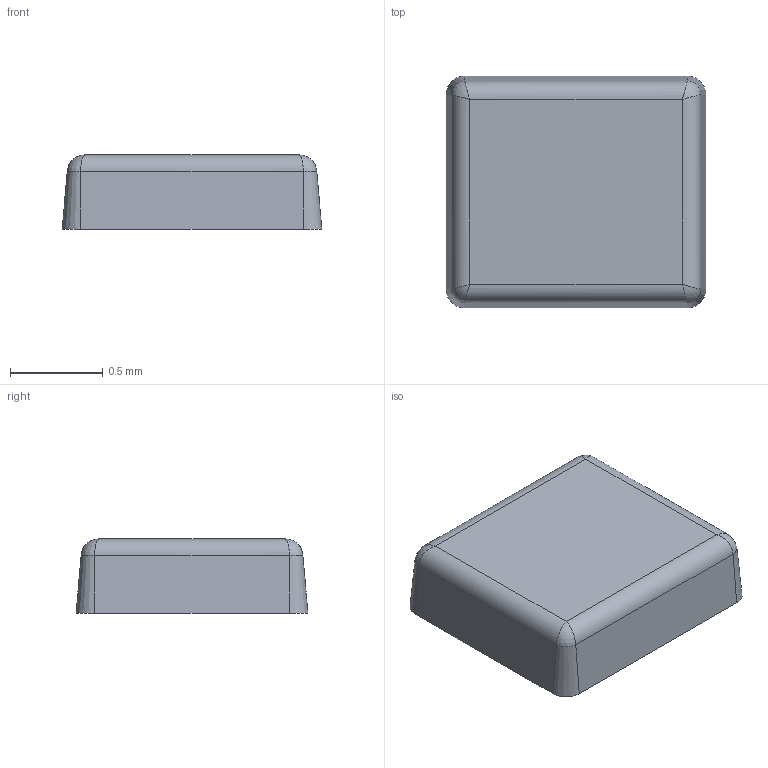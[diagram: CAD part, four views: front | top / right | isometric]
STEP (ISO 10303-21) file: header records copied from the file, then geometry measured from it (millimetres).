
FILE_DESCRIPTION(/* description */ ('STEP AP242 Edition 2','CAx-IF Rec.Pracs.---Representation and Presentation of Product Manufacturing Information (PMI)---4.0---2014-10-13','CAx-IF Rec.Pracs.---3D Tessellated Geometry---0.4---2014-09-14','2;1','CAx-IF Rec.Pracs.---User Defined Attributes---1.5---2016-08-15'),/* implementation_level */ '2;1');
FILE_NAME(/* name */ 'Assembly 1 - LED0805-RD_RED~LED0805-RD_RED~nxQB_1 (1)',/* time_stamp */ '2026-04-02T09:55:15Z',/* author */ (''),/* organization */ (''),/* preprocessor_version */ 'ST-DEVELOPER v20',/* originating_system */ 'ONSHAPE BY PTC INC, 1.212',/* authorisation */ ' ');
FILE_SCHEMA (('AP242_MANAGED_MODEL_BASED_3D_ENGINEERING_MIM_LF { 1 0 10303 442 3 1 4 }'));
Length unit declared in the file: metre
Products named in the file (1): LED0805-RD_RED~LED0805-RD_RED~nxQB_1
Bounding box: 1.4 x 1.25 x 0.4 mm (x, y, z)
Volume: 0.7 mm3; surface area: 5.1 mm2
Topology: 1 solids, 1 shells, 18 faces, 40 edges, 20 vertices
Faces by surface type: plane 6, bspline 4, cylinder 4, cone 4
Entity records: 1393 total; most frequent: CARTESIAN_POINT 907, ORIENTED_EDGE 72, DIRECTION 58, EDGE_CURVE 36, LINE 20, VECTOR 20, VERTEX_POINT 20, PRESENTATION_STYLE_ASSIGNMENT 19
